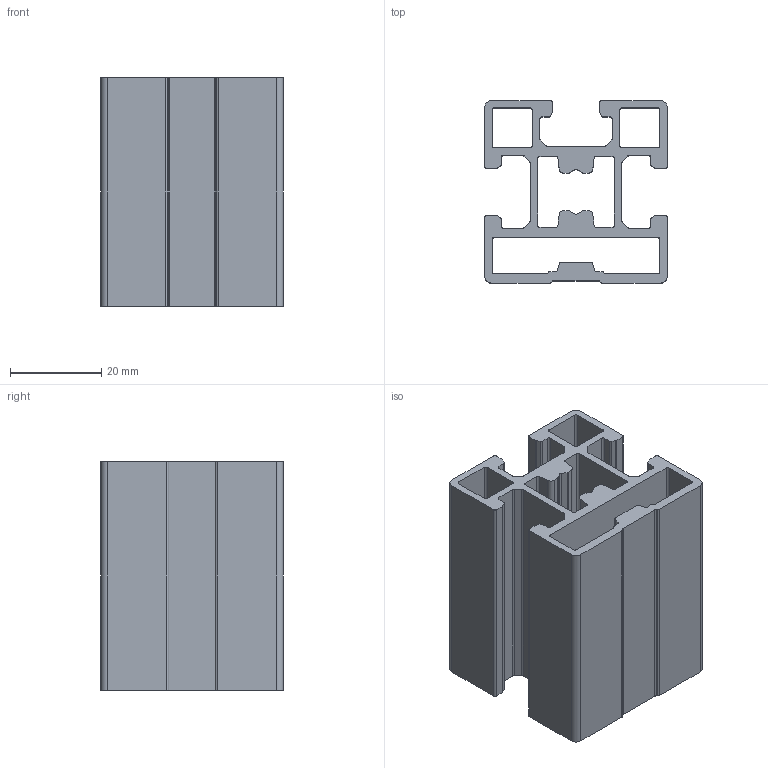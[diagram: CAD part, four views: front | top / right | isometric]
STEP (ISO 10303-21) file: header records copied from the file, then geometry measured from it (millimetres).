
FILE_DESCRIPTION(('STEP AP214'),'1');
FILE_NAME('F44K-.stp','2017-07-14T08:00:02',(' '),(' '),'Spatial InterOp 3D',' ',' ');
FILE_SCHEMA(('automotive_design'));
Length unit declared in the file: millimetre
Products named in the file (1): F44K-
Bounding box: 40 x 40 x 50 mm (x, y, z)
Volume: 27207.7 mm3; surface area: 24973.2 mm2
Topology: 1 solids, 1 shells, 166 faces, 492 edges, 328 vertices
Faces by surface type: plane 84, cylinder 82
Entity records: 6960 total; most frequent: DIRECTION 990, CARTESIAN_POINT 987, ORIENTED_EDGE 984, EDGE_CURVE 492, AXIS2_PLACEMENT_3D 331, VERTEX_POINT 328, LINE 328, VECTOR 328
